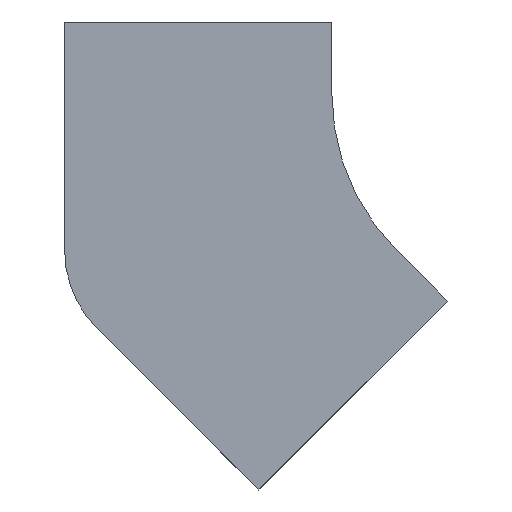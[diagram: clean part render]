
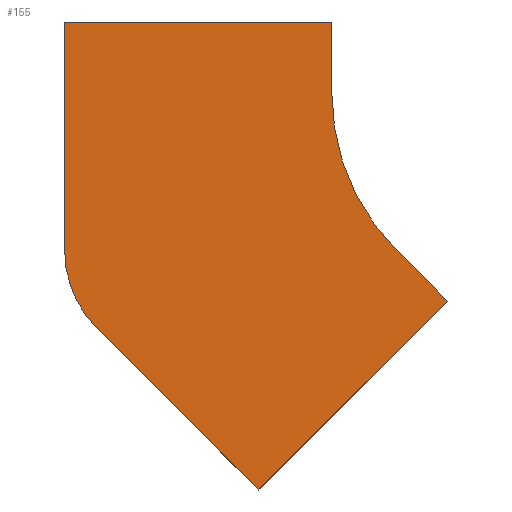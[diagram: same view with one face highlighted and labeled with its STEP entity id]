
A CAD part, front view. The second image highlights one B-rep face of the part: STEP entity #155.
In plain terms, the highlighted planar face has unit normal (0, -1, 0).
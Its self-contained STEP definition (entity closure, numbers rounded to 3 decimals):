
#15 = VERTEX_POINT ( 'NONE', #1500 ) ;
#44 = EDGE_CURVE ( 'NONE', #265, #1001, #1005, .T. ) ;
#46 = VERTEX_POINT ( 'NONE', #1664 ) ;
#48 = CARTESIAN_POINT ( 'NONE',  ( -275., 0., 40. ) ) ;
#58 = CARTESIAN_POINT ( 'NONE',  ( -166.17, 0., -222.739 ) ) ;
#61 = ORIENTED_EDGE ( 'NONE', *, *, #1357, .F. ) ;
#76 = LINE ( 'NONE', #1626, #300 ) ;
#84 = LINE ( 'NONE', #882, #860 ) ;
#100 = CIRCLE ( 'NONE', #1188, 125. ) ;
#116 = CARTESIAN_POINT ( 'NONE',  ( -166.17, 0., -222.739 ) ) ;
#155 = ADVANCED_FACE ( 'NONE', ( #1257 ), #609, .T. ) ;
#160 = DIRECTION ( 'NONE',  ( 0., 1., 0. ) ) ;
#199 = CARTESIAN_POINT ( 'NONE',  ( -125., 0., 40. ) ) ;
#226 = CARTESIAN_POINT ( 'NONE',  ( -125., 0., 0. ) ) ;
#239 = VECTOR ( 'NONE', #628, 1000. ) ;
#265 = VERTEX_POINT ( 'NONE', #58 ) ;
#269 = EDGE_CURVE ( 'NONE', #657, #46, #574, .T. ) ;
#292 = DIRECTION ( 'NONE',  ( 0., -1., 0. ) ) ;
#300 = VECTOR ( 'NONE', #340, 1000. ) ;
#340 = DIRECTION ( 'NONE',  ( -0.707, 0., -0.707 ) ) ;
#404 = AXIS2_PLACEMENT_3D ( 'NONE', #1313, #160, #1457 ) ;
#451 = VECTOR ( 'NONE', #1474, 1000. ) ;
#486 = ORIENTED_EDGE ( 'NONE', *, *, #708, .F. ) ;
#498 = ORIENTED_EDGE ( 'NONE', *, *, #44, .F. ) ;
#515 = ORIENTED_EDGE ( 'NONE', *, *, #1527, .F. ) ;
#529 = DIRECTION ( 'NONE',  ( 0., -1., 0. ) ) ;
#559 = VERTEX_POINT ( 'NONE', #199 ) ;
#574 = LINE ( 'NONE', #666, #1597 ) ;
#609 = PLANE ( 'NONE',  #1222 ) ;
#628 = DIRECTION ( 'NONE',  ( 0., 0., 1. ) ) ;
#657 = VERTEX_POINT ( 'NONE', #1639 ) ;
#666 = CARTESIAN_POINT ( 'NONE',  ( -88.388, 0., -88.388 ) ) ;
#695 = LINE ( 'NONE', #48, #451 ) ;
#708 = EDGE_CURVE ( 'NONE', #559, #1090, #84, .T. ) ;
#753 = ORIENTED_EDGE ( 'NONE', *, *, #847, .F. ) ;
#791 = LINE ( 'NONE', #1310, #239 ) ;
#828 = EDGE_LOOP ( 'NONE', ( #1106, #753, #61, #498, #515, #1250, #1260, #486 ) ) ;
#847 = EDGE_CURVE ( 'NONE', #1578, #15, #791, .T. ) ;
#860 = VECTOR ( 'NONE', #1402, 1000. ) ;
#882 = CARTESIAN_POINT ( 'NONE',  ( -125., 0., 40. ) ) ;
#911 = EDGE_CURVE ( 'NONE', #1090, #657, #100, .T. ) ;
#931 = DIRECTION ( 'NONE',  ( 0., 0., -1. ) ) ;
#980 = EDGE_CURVE ( 'NONE', #15, #559, #695, .T. ) ;
#1001 = VERTEX_POINT ( 'NONE', #1235 ) ;
#1004 = VECTOR ( 'NONE', #1159, 1000. ) ;
#1005 = LINE ( 'NONE', #116, #1004 ) ;
#1090 = VERTEX_POINT ( 'NONE', #226 ) ;
#1091 = DIRECTION ( 'NONE',  ( 0., 0., -1. ) ) ;
#1099 = DIRECTION ( 'NONE',  ( 0.707, 0., -0.707 ) ) ;
#1106 = ORIENTED_EDGE ( 'NONE', *, *, #980, .F. ) ;
#1132 = CIRCLE ( 'NONE', #404, 62.5 ) ;
#1159 = DIRECTION ( 'NONE',  ( -0.707, 0., 0.707 ) ) ;
#1184 = CARTESIAN_POINT ( 'NONE',  ( 0., 0., 0. ) ) ;
#1188 = AXIS2_PLACEMENT_3D ( 'NONE', #1348, #292, #1091 ) ;
#1222 = AXIS2_PLACEMENT_3D ( 'NONE', #1184, #529, #931 ) ;
#1235 = CARTESIAN_POINT ( 'NONE',  ( -256.694, 0., -132.215 ) ) ;
#1250 = ORIENTED_EDGE ( 'NONE', *, *, #269, .F. ) ;
#1257 = FACE_OUTER_BOUND ( 'NONE', #828, .T. ) ;
#1260 = ORIENTED_EDGE ( 'NONE', *, *, #911, .F. ) ;
#1310 = CARTESIAN_POINT ( 'NONE',  ( -275., 0., -88.02 ) ) ;
#1313 = CARTESIAN_POINT ( 'NONE',  ( -212.5, 0., -88.02 ) ) ;
#1348 = CARTESIAN_POINT ( 'NONE',  ( 0., 0., 0. ) ) ;
#1357 = EDGE_CURVE ( 'NONE', #1001, #1578, #1132, .T. ) ;
#1402 = DIRECTION ( 'NONE',  ( 0., 0., -1. ) ) ;
#1457 = DIRECTION ( 'NONE',  ( 0., 0., 1. ) ) ;
#1474 = DIRECTION ( 'NONE',  ( 1., 0., 0. ) ) ;
#1500 = CARTESIAN_POINT ( 'NONE',  ( -275., 0., 40. ) ) ;
#1523 = CARTESIAN_POINT ( 'NONE',  ( -275., 0., -88.02 ) ) ;
#1527 = EDGE_CURVE ( 'NONE', #46, #265, #76, .T. ) ;
#1578 = VERTEX_POINT ( 'NONE', #1523 ) ;
#1597 = VECTOR ( 'NONE', #1099, 1000. ) ;
#1626 = CARTESIAN_POINT ( 'NONE',  ( -60.104, 0., -116.673 ) ) ;
#1639 = CARTESIAN_POINT ( 'NONE',  ( -88.388, 0., -88.388 ) ) ;
#1664 = CARTESIAN_POINT ( 'NONE',  ( -60.104, 0., -116.673 ) ) ;
